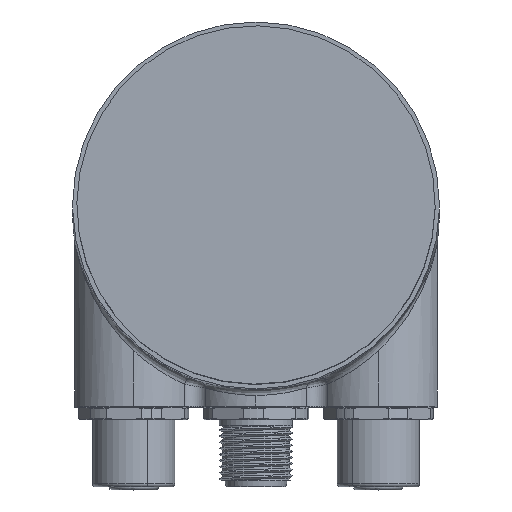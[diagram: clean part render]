
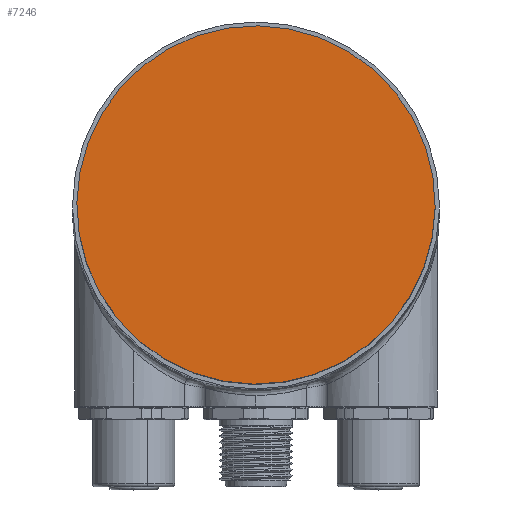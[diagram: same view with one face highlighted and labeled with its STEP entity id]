
A CAD part, top view. The second image highlights one B-rep face of the part: STEP entity #7246.
In plain terms, the highlighted planar face has unit normal (0, 0, 1).
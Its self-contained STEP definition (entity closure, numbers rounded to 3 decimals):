
#886 = CIRCLE ( 'NONE', #23861, 29.3 ) ;
#2492 = EDGE_LOOP ( 'NONE', ( #66308, #36129 ) ) ;
#2753 = EDGE_CURVE ( 'NONE', #8351, #44595, #886, .T. ) ;
#2986 = CARTESIAN_POINT ( 'NONE',  ( 0., 0., 70.25 ) ) ;
#7246 = ADVANCED_FACE ( 'NONE', ( #15374 ), #67816, .F. ) ;
#8351 = VERTEX_POINT ( 'NONE', #31518 ) ;
#8616 = DIRECTION ( 'NONE',  ( 0., 0., -1. ) ) ;
#11595 = DIRECTION ( 'NONE',  ( -0.775, -0.631, 0. ) ) ;
#13798 = DIRECTION ( 'NONE',  ( -0.775, -0.631, 0. ) ) ;
#15374 = FACE_OUTER_BOUND ( 'NONE', #2492, .T. ) ;
#22441 = CIRCLE ( 'NONE', #34586, 29.3 ) ;
#23861 = AXIS2_PLACEMENT_3D ( 'NONE', #43485, #38367, #11595 ) ;
#23991 = DIRECTION ( 'NONE',  ( -0.775, -0.631, 0. ) ) ;
#26035 = CARTESIAN_POINT ( 'NONE',  ( 0., 0., 70.25 ) ) ;
#31518 = CARTESIAN_POINT ( 'NONE',  ( 22.72, 18.502, 70.25 ) ) ;
#34586 = AXIS2_PLACEMENT_3D ( 'NONE', #2986, #61015, #23991 ) ;
#35919 = AXIS2_PLACEMENT_3D ( 'NONE', #26035, #8616, #13798 ) ;
#36129 = ORIENTED_EDGE ( 'NONE', *, *, #67697, .F. ) ;
#38367 = DIRECTION ( 'NONE',  ( 0., 0., -1. ) ) ;
#39947 = CARTESIAN_POINT ( 'NONE',  ( -22.72, -18.502, 70.25 ) ) ;
#43485 = CARTESIAN_POINT ( 'NONE',  ( 0., 0., 70.25 ) ) ;
#44595 = VERTEX_POINT ( 'NONE', #39947 ) ;
#61015 = DIRECTION ( 'NONE',  ( 0., 0., -1. ) ) ;
#66308 = ORIENTED_EDGE ( 'NONE', *, *, #2753, .F. ) ;
#67697 = EDGE_CURVE ( 'NONE', #44595, #8351, #22441, .T. ) ;
#67816 = PLANE ( 'NONE',  #35919 ) ;
